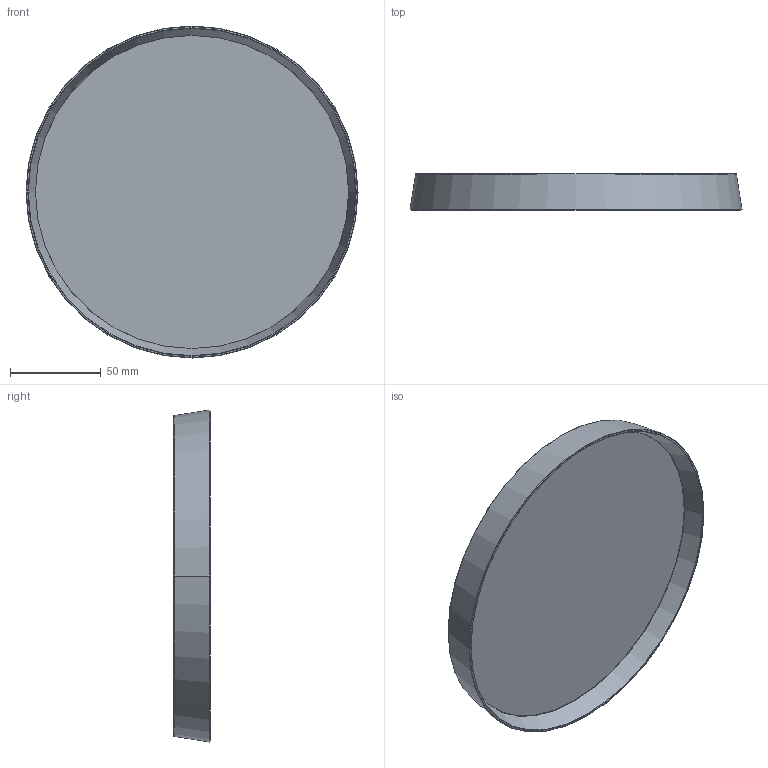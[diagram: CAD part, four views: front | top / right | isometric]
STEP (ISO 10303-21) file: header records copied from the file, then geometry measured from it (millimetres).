
FILE_DESCRIPTION((''),'2;1');
FILE_NAME('561061','2024-08-13T14:18:28',('abbyac01'),(''),'CREO PARAMETRIC BY PTC INC, 2023352','CREO PARAMETRIC BY PTC INC, 2023352','');
FILE_SCHEMA(('CONFIG_CONTROL_DESIGN','SHAPE_APPEARANCE_LAYERS_GROUPS'));
Length unit declared in the file: millimetre
Products named in the file (1): 561061
Bounding box: 183.04 x 19.97 x 183.04 mm (x, y, z)
Volume: 73750.8 mm3; surface area: 69879.6 mm2
Topology: 1 solids, 1 shells, 23 faces, 44 edges, 24 vertices
Faces by surface type: torus 12, cone 8, plane 3
Entity records: 901 total; most frequent: DIRECTION 126, CARTESIAN_POINT 91, ORIENTED_EDGE 88, AXIS2_PLACEMENT_3D 59, PRESENTATION_STYLE_ASSIGNMENT 56, STYLED_ITEM 45, CURVE_STYLE 44, EDGE_CURVE 44
